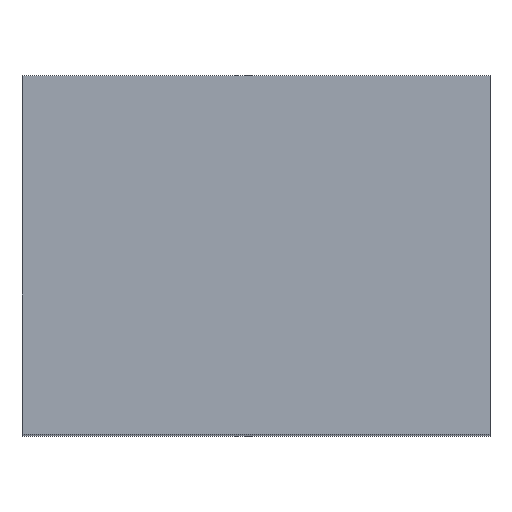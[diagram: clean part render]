
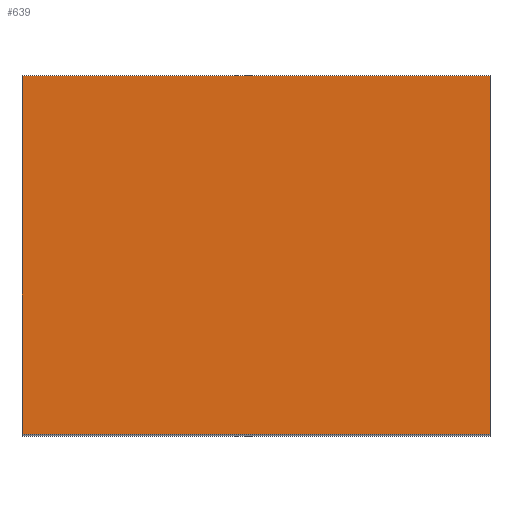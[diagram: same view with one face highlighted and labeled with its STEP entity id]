
A CAD part, top view. The second image highlights one B-rep face of the part: STEP entity #639.
In plain terms, the highlighted planar face has unit normal (0, 0, 1).
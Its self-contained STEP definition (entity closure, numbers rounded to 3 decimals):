
#42 = VERTEX_POINT('',#43);
#43 = CARTESIAN_POINT('',(30.5,-8.7,49.));
#50 = PLANE('',#51);
#51 = AXIS2_PLACEMENT_3D('',#52,#53,#54);
#52 = CARTESIAN_POINT('',(30.5,-11.,41.));
#53 = DIRECTION('',(1.,0.,0.));
#54 = DIRECTION('',(0.,0.,1.));
#62 = PLANE('',#63);
#63 = AXIS2_PLACEMENT_3D('',#64,#65,#66);
#64 = CARTESIAN_POINT('',(30.5,-8.7,41.));
#65 = DIRECTION('',(0.,1.,0.));
#66 = DIRECTION('',(0.,0.,1.));
#74 = EDGE_CURVE('',#75,#42,#77,.T.);
#75 = VERTEX_POINT('',#76);
#76 = CARTESIAN_POINT('',(30.5,-11.,49.));
#77 = SURFACE_CURVE('',#78,(#82,#89),.PCURVE_S1.);
#78 = LINE('',#79,#80);
#79 = CARTESIAN_POINT('',(30.5,-11.,49.));
#80 = VECTOR('',#81,1.);
#81 = DIRECTION('',(0.,1.,0.));
#82 = PCURVE('',#50,#83);
#83 = DEFINITIONAL_REPRESENTATION('',(#84),#88);
#84 = LINE('',#85,#86);
#85 = CARTESIAN_POINT('',(8.,0.));
#86 = VECTOR('',#87,1.);
#87 = DIRECTION('',(0.,-1.));
#88 = ( GEOMETRIC_REPRESENTATION_CONTEXT(2) 
PARAMETRIC_REPRESENTATION_CONTEXT() REPRESENTATION_CONTEXT('2D SPACE',''
  ) );
#89 = PCURVE('',#90,#95);
#90 = PLANE('',#91);
#91 = AXIS2_PLACEMENT_3D('',#92,#93,#94);
#92 = CARTESIAN_POINT('',(30.5,-11.,49.));
#93 = DIRECTION('',(0.,0.,1.));
#94 = DIRECTION('',(1.,0.,0.));
#95 = DEFINITIONAL_REPRESENTATION('',(#96),#100);
#96 = LINE('',#97,#98);
#97 = CARTESIAN_POINT('',(0.,0.));
#98 = VECTOR('',#99,1.);
#99 = DIRECTION('',(0.,1.));
#100 = ( GEOMETRIC_REPRESENTATION_CONTEXT(2) 
PARAMETRIC_REPRESENTATION_CONTEXT() REPRESENTATION_CONTEXT('2D SPACE',''
  ) );
#118 = PLANE('',#119);
#119 = AXIS2_PLACEMENT_3D('',#120,#121,#122);
#120 = CARTESIAN_POINT('',(30.5,-11.,41.));
#121 = DIRECTION('',(0.,1.,0.));
#122 = DIRECTION('',(0.,0.,1.));
#276 = VERTEX_POINT('',#277);
#277 = CARTESIAN_POINT('',(33.5,-8.7,49.));
#291 = PLANE('',#292);
#292 = AXIS2_PLACEMENT_3D('',#293,#294,#295);
#293 = CARTESIAN_POINT('',(33.5,-11.,41.));
#294 = DIRECTION('',(1.,0.,0.));
#295 = DIRECTION('',(0.,0.,1.));
#324 = EDGE_CURVE('',#42,#276,#325,.T.);
#325 = SURFACE_CURVE('',#326,(#330,#337),.PCURVE_S1.);
#326 = LINE('',#327,#328);
#327 = CARTESIAN_POINT('',(30.5,-8.7,49.));
#328 = VECTOR('',#329,1.);
#329 = DIRECTION('',(1.,0.,0.));
#330 = PCURVE('',#62,#331);
#331 = DEFINITIONAL_REPRESENTATION('',(#332),#336);
#332 = LINE('',#333,#334);
#333 = CARTESIAN_POINT('',(8.,0.));
#334 = VECTOR('',#335,1.);
#335 = DIRECTION('',(0.,1.));
#336 = ( GEOMETRIC_REPRESENTATION_CONTEXT(2) 
PARAMETRIC_REPRESENTATION_CONTEXT() REPRESENTATION_CONTEXT('2D SPACE',''
  ) );
#337 = PCURVE('',#90,#338);
#338 = DEFINITIONAL_REPRESENTATION('',(#339),#343);
#339 = LINE('',#340,#341);
#340 = CARTESIAN_POINT('',(0.,2.3));
#341 = VECTOR('',#342,1.);
#342 = DIRECTION('',(1.,0.));
#343 = ( GEOMETRIC_REPRESENTATION_CONTEXT(2) 
PARAMETRIC_REPRESENTATION_CONTEXT() REPRESENTATION_CONTEXT('2D SPACE',''
  ) );
#596 = EDGE_CURVE('',#75,#597,#599,.T.);
#597 = VERTEX_POINT('',#598);
#598 = CARTESIAN_POINT('',(33.5,-11.,49.));
#599 = SURFACE_CURVE('',#600,(#604,#611),.PCURVE_S1.);
#600 = LINE('',#601,#602);
#601 = CARTESIAN_POINT('',(30.5,-11.,49.));
#602 = VECTOR('',#603,1.);
#603 = DIRECTION('',(1.,0.,0.));
#604 = PCURVE('',#118,#605);
#605 = DEFINITIONAL_REPRESENTATION('',(#606),#610);
#606 = LINE('',#607,#608);
#607 = CARTESIAN_POINT('',(8.,0.));
#608 = VECTOR('',#609,1.);
#609 = DIRECTION('',(0.,1.));
#610 = ( GEOMETRIC_REPRESENTATION_CONTEXT(2) 
PARAMETRIC_REPRESENTATION_CONTEXT() REPRESENTATION_CONTEXT('2D SPACE',''
  ) );
#611 = PCURVE('',#90,#612);
#612 = DEFINITIONAL_REPRESENTATION('',(#613),#617);
#613 = LINE('',#614,#615);
#614 = CARTESIAN_POINT('',(0.,0.));
#615 = VECTOR('',#616,1.);
#616 = DIRECTION('',(1.,0.));
#617 = ( GEOMETRIC_REPRESENTATION_CONTEXT(2) 
PARAMETRIC_REPRESENTATION_CONTEXT() REPRESENTATION_CONTEXT('2D SPACE',''
  ) );
#639 = ADVANCED_FACE('',(#640),#90,.T.);
#640 = FACE_BOUND('',#641,.T.);
#641 = EDGE_LOOP('',(#642,#643,#644,#665));
#642 = ORIENTED_EDGE('',*,*,#74,.F.);
#643 = ORIENTED_EDGE('',*,*,#596,.T.);
#644 = ORIENTED_EDGE('',*,*,#645,.T.);
#645 = EDGE_CURVE('',#597,#276,#646,.T.);
#646 = SURFACE_CURVE('',#647,(#651,#658),.PCURVE_S1.);
#647 = LINE('',#648,#649);
#648 = CARTESIAN_POINT('',(33.5,-11.,49.));
#649 = VECTOR('',#650,1.);
#650 = DIRECTION('',(0.,1.,0.));
#651 = PCURVE('',#90,#652);
#652 = DEFINITIONAL_REPRESENTATION('',(#653),#657);
#653 = LINE('',#654,#655);
#654 = CARTESIAN_POINT('',(3.,0.));
#655 = VECTOR('',#656,1.);
#656 = DIRECTION('',(0.,1.));
#657 = ( GEOMETRIC_REPRESENTATION_CONTEXT(2) 
PARAMETRIC_REPRESENTATION_CONTEXT() REPRESENTATION_CONTEXT('2D SPACE',''
  ) );
#658 = PCURVE('',#291,#659);
#659 = DEFINITIONAL_REPRESENTATION('',(#660),#664);
#660 = LINE('',#661,#662);
#661 = CARTESIAN_POINT('',(8.,0.));
#662 = VECTOR('',#663,1.);
#663 = DIRECTION('',(0.,-1.));
#664 = ( GEOMETRIC_REPRESENTATION_CONTEXT(2) 
PARAMETRIC_REPRESENTATION_CONTEXT() REPRESENTATION_CONTEXT('2D SPACE',''
  ) );
#665 = ORIENTED_EDGE('',*,*,#324,.F.);
